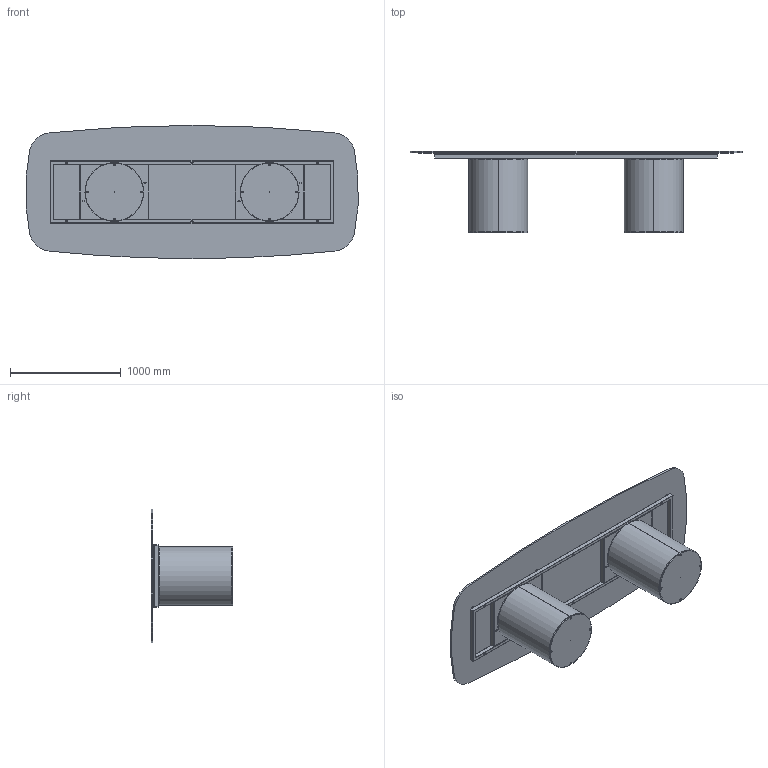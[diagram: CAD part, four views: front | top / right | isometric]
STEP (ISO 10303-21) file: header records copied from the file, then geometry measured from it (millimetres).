
FILE_DESCRIPTION (( 'STEP AP203' ), '1' );
FILE_NAME ('CI44G.STEP', '2024-08-08T07:11:59', ( '' ), ( '' ), 'SwSTEP 2.0', 'SolidWorks 2022', '' );
FILE_SCHEMA (( 'CONFIG_CONTROL_DESIGN' ));
Length unit declared in the file: millimetre
Products named in the file (11): C2B000000_02-01-ZAVORRA IN FERRO D.530mm; M8xXXmm_hex_M8X20mm; 434070-00-PIEDINO TPV GOMMA NERO D. 30x8max18_filo estetico; CI44G; TTAV03-06-TELAIO UNIVERSALE X TAVOLI 300-340cm; COLLO TELAIO UNIVERSALE TTAV03 CON FERRAMENTA_MTG TOP CRISTALLO VERNICIATO-CERAMICA; TTAV03_02-06-VASSOIO IRRIGIDIMENTO TELAIO UNIVERSALE RETTANGOLARE; C2B000000_01-00-struttura cilindro D.530mm; C4XCRXX-00-Piani Sagomati in Cristallo_3000 x 1200; TTAV03_01-06-RING TUBO TELAIO UNIVERSALE X TAVOLI 300-340cm; C2B000000-03-CILINDRO BASE D.530mm_Normale
Assembly tree (22 placements, depth 4):
  CI44G
    C2B000000-03-CILINDRO BASE D.530mm_Normale  x2
      C2B000000_01-00-struttura cilindro D.530mm
      C2B000000_02-01-ZAVORRA IN FERRO D.530mm
      M8xXXmm_hex_M8X20mm
    COLLO TELAIO UNIVERSALE TTAV03 CON FERRAMENTA_MTG TOP CRISTALLO VERNICIATO-CERAMICA
      TTAV03-06-TELAIO UNIVERSALE X TAVOLI 300-340cm
        TTAV03_01-06-RING TUBO TELAIO UNIVERSALE X TAVOLI 300-340cm
        TTAV03_02-06-VASSOIO IRRIGIDIMENTO TELAIO UNIVERSALE RETTANGOLARE  x2
      434070-00-PIEDINO TPV GOMMA NERO D. 30x8max18_filo estetico  x8
    C4XCRXX-00-Piani Sagomati in Cristallo_3000 x 1200
Bounding box: 2991.72 x 735 x 1200 mm (x, y, z)
Volume: 65021953.6 mm3; surface area: 15902948.8 mm2
Topology: 38 solids, 38 shells, 975 faces, 2207 edges, 1286 vertices
Faces by surface type: plane 442, cylinder 353, cone 96, torus 48, sphere 36
Entity records: 13604 total; most frequent: DIRECTION 2255, CARTESIAN_POINT 2047, ORIENTED_EDGE 1970, EDGE_CURVE 985, AXIS2_PLACEMENT_3D 839, VERTEX_POINT 599, VECTOR 577, LINE 577
